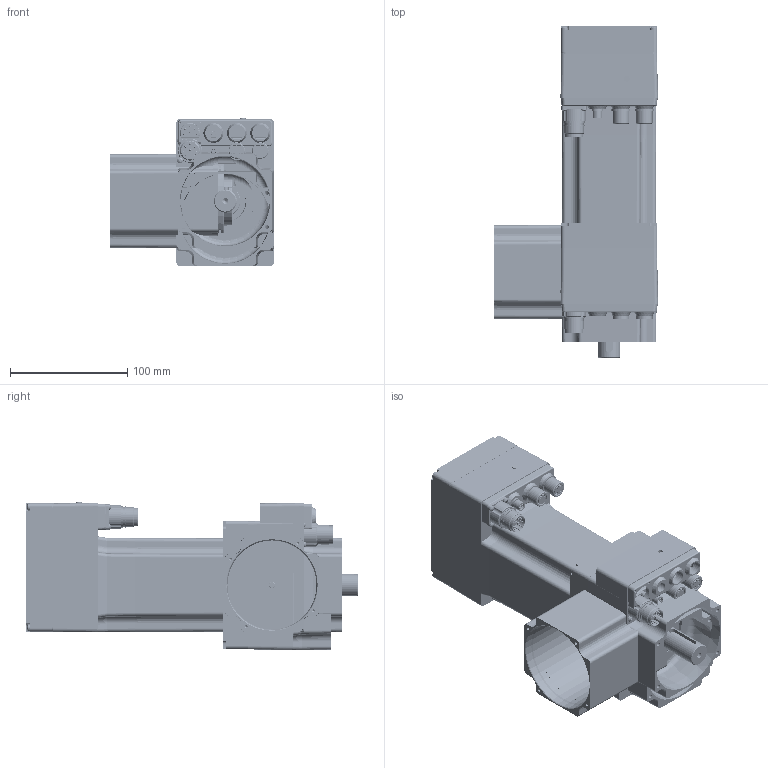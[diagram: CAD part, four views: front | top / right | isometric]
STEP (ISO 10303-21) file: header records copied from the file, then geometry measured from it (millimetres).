
FILE_DESCRIPTION( ( 'Unknown' ), '1' );
FILE_NAME( 'C:/Users/dotti/Desktop/Q0B215/Q0B215 2,8.stp', 'Unknown', ( 'Unknown' ), ( 'Unknown' ), 'PSStep 14.0', 'Unknown', ' ' );
FILE_SCHEMA( ( 'AUTOMOTIVE_DESIGN { 1 0 10303 214 1 1 1 1 }' ) );
Length unit declared in the file: millimetre
Products named in the file (44): Assem1; T00272; 005117000974; N54236; CN M23 PAN-POT BEGA 906 4+5p; VECST-8112 M  2,5 x 12; G00030_ethercat; LI-PIA   6x6 x 30; CUSC_15_32_9_6002_ZZ; CUSC_20_42_12_6004_ZZ; a-ela  20; Anello-elastico-chiuso  42; N09280; 003251021084; anello-elastico-chiuso  32; Vite a brugola testa cil 8,8 -  M  3 x 25; Vite a brugola testa cil 8,8 -  M  3 x 25-oa0; Vite a brugola testa cil 8,8 -  M  3 x 25-oa1; Vite a brugola testa cil 8,8 -  M  3 x 25-oa2; Vite a brugola testa cil 8,8 -  M  3 x 40; Vite a brugola testa cil 8,8 -  M  3 x 40-oa3; Vite a brugola testa cil 8,8 -  M  3 x 40-oa4; Vite a brugola testa cil 8,8 -  M  3 x 40-oa5; N35217; VECST-8112 M  3 x 30; 003016000054; N01380; N54239
Bounding box: 139.5 x 282.93 x 126.21 mm (x, y, z)
Volume: 1177159.3 mm3; surface area: 580889 mm2
Topology: 101 solids, 105 shells, 6900 faces, 18656 edges, 12221 vertices
Faces by surface type: plane 3728, cylinder 2348, bspline 283, cone 279, torus 209, sphere 53
Full cylindrical faces by diameter (mm): 1 x39, 1.5 x12, 1.6 x45, 2 x4, 2.4 x24, 2.459 x44, 2.5 x17, 2.7 x12, 3 x21, 3.5 x34, 4 x5, 4.2 x2, 4.917 x2, 5 x11, 5.5 x16, 6 x28, 8 x17, 8.5 x9, 8.75 x3, 9 x8, 10 x3, 11 x15, 11.9 x5, 12 x6, 14 x5, 14.4 x3, 14.5 x3, 15 x4, 15.6 x3, 16 x5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
Entity records: 87138 total; most frequent: CARTESIAN_POINT 23765, DIRECTION 10543, ORIENTED_EDGE 10412, EDGE_CURVE 5206, AXIS2_PLACEMENT_3D 3890, VERTEX_POINT 3575, LINE 2763, VECTOR 2763
